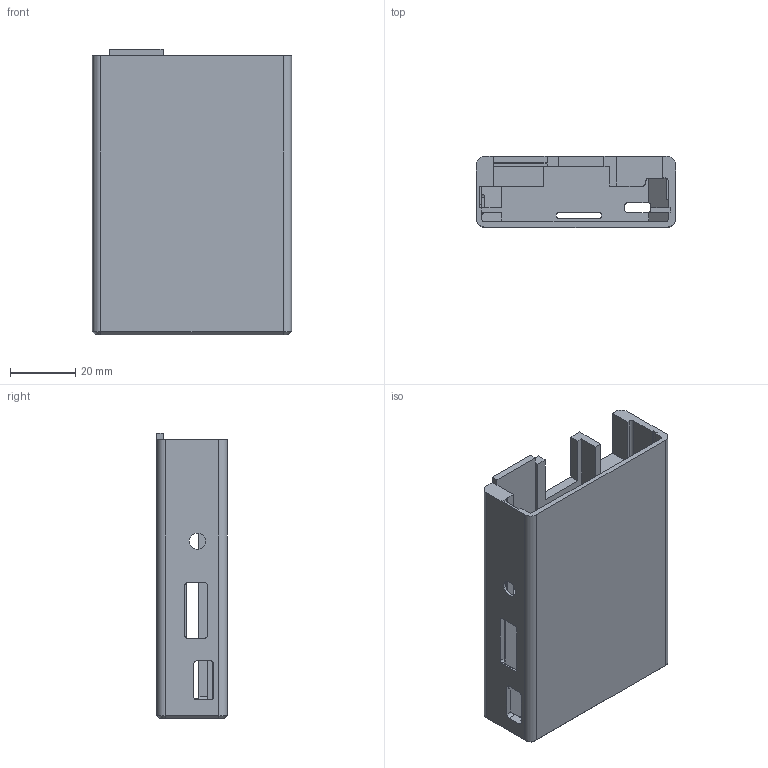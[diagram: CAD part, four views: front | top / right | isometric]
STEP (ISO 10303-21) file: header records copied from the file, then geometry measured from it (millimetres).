
FILE_DESCRIPTION( ( '' ), ' ' );
FILE_NAME( '/vol/tmp/translate-326849235318264598/58324ff26b884e10540a9ce8.step', '2016-11-21T01:37:54', ( '' ), ( '' ), ' ', ' ', ' ' );
FILE_SCHEMA( ( 'AUTOMOTIVE_DESIGN { 1 0 10303 214 1 1 1 1 }' ) );
Length unit declared in the file: metre
Products named in the file (1): Raspberry PI Sleeve v1
Bounding box: 61.2 x 21.7 x 87.8 mm (x, y, z)
Volume: 32767.1 mm3; surface area: 29941.8 mm2
Topology: 1 solids, 1 shells, 217 faces, 640 edges, 418 vertices
Faces by surface type: plane 129, cylinder 77, cone 11
Full cylindrical faces by diameter (mm): 5 x1
Entity records: 9059 total; most frequent: CARTESIAN_POINT 1306, ORIENTED_EDGE 1278, DIRECTION 1242, EDGE_CURVE 639, LINE 464, VECTOR 464, VERTEX_POINT 418, AXIS2_PLACEMENT_3D 389
